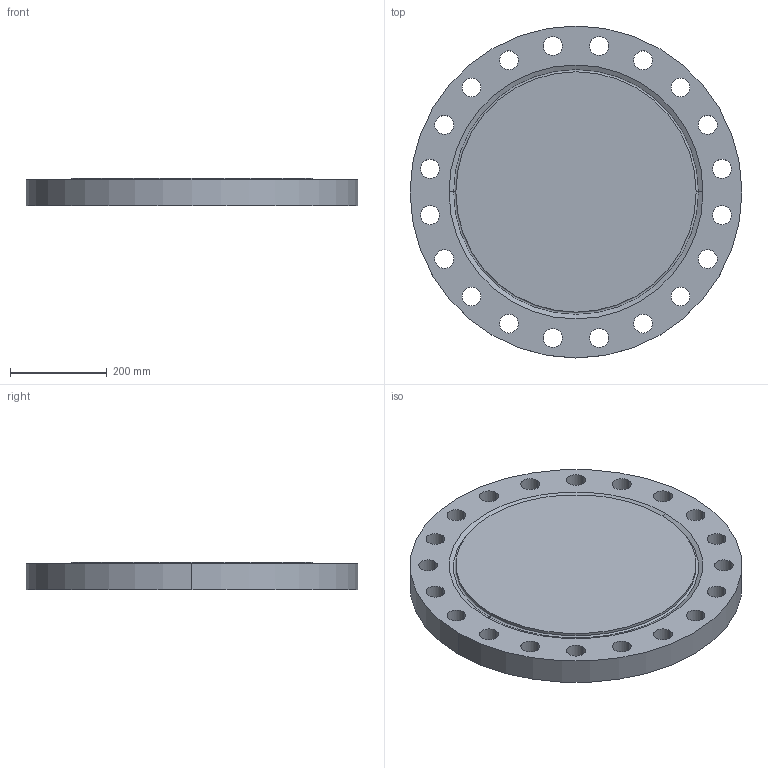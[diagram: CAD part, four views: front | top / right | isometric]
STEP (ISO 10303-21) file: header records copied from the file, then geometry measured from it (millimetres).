
FILE_DESCRIPTION (( 'STEP AP214' ), '1' );
FILE_NAME ('PN40 DN450 Type 05 - Type H Face.STEP', '2018-12-29T02:44:42', ( '' ), ( '' ), 'SwSTEP 2.0', 'SolidWorks 2019', '' );
FILE_SCHEMA (( 'AUTOMOTIVE_DESIGN' ));
Length unit declared in the file: millimetre
Products named in the file (1): PN40 DN450 Type 05 - Type H Face
Bounding box: 685 x 685 x 57 mm (x, y, z)
Volume: 19121287.8 mm3; surface area: 950038.6 mm2
Topology: 1 solids, 1 shells, 51 faces, 140 edges, 92 vertices
Faces by surface type: cylinder 44, plane 3, torus 2, cone 2
Entity records: 1790 total; most frequent: DIRECTION 338, CARTESIAN_POINT 284, ORIENTED_EDGE 280, AXIS2_PLACEMENT_3D 146, EDGE_CURVE 140, CIRCLE 94, EDGE_LOOP 92, VERTEX_POINT 92
